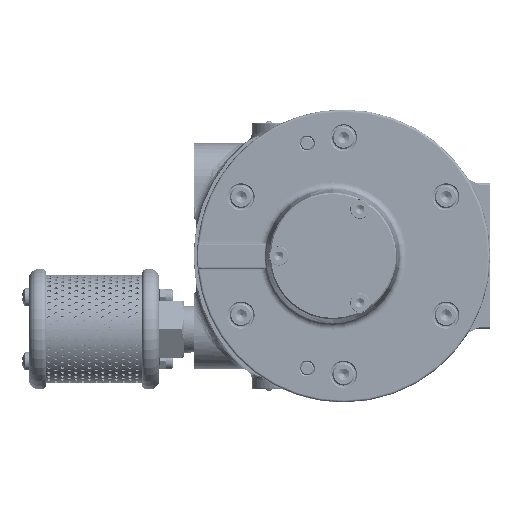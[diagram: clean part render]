
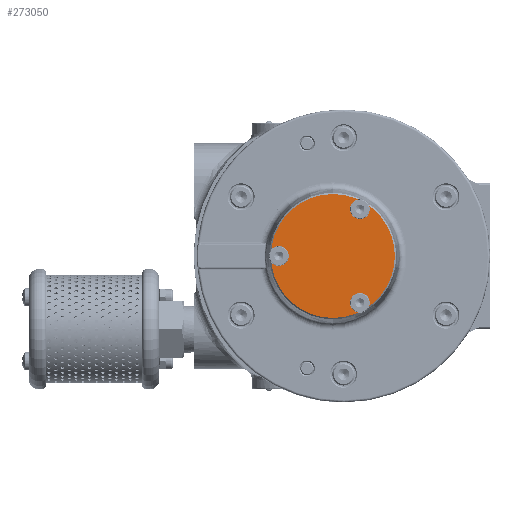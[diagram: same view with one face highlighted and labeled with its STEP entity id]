
A CAD part, left-side view. The second image highlights one B-rep face of the part: STEP entity #273050.
In plain terms, the highlighted planar face has unit normal (-1, 0, 0).
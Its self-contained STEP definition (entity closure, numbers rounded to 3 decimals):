
#7669 = EDGE_LOOP ( 'NONE', ( #189484, #130577 ) ) ;
#12923 = EDGE_CURVE ( 'NONE', #75885, #85635, #138036, .T. ) ;
#13152 = EDGE_CURVE ( 'NONE', #77441, #66413, #256221, .T. ) ;
#13210 = CIRCLE ( 'NONE', #208517, 2.75 ) ;
#14608 = FACE_BOUND ( 'NONE', #210208, .T. ) ;
#28294 = EDGE_LOOP ( 'NONE', ( #257019, #123901 ) ) ;
#33562 = CARTESIAN_POINT ( 'NONE',  ( -65.28, 4.75, 0. ) ) ;
#40694 = CIRCLE ( 'NONE', #184361, 2.75 ) ;
#48564 = DIRECTION ( 'NONE',  ( -1., 0., 0. ) ) ;
#52382 = DIRECTION ( 'NONE',  ( 0., -0.5, -0.866 ) ) ;
#52690 = CARTESIAN_POINT ( 'NONE',  ( -65.28, 18.5, 23.816 ) ) ;
#54056 = EDGE_CURVE ( 'NONE', #66413, #77441, #297056, .T. ) ;
#55012 = CARTESIAN_POINT ( 'NONE',  ( -65.28, -9., -23.816 ) ) ;
#57800 = DIRECTION ( 'NONE',  ( -1., 0., 0. ) ) ;
#60557 = ORIENTED_EDGE ( 'NONE', *, *, #13152, .F. ) ;
#60608 = CARTESIAN_POINT ( 'NONE',  ( -65.28, 4.75, 0. ) ) ;
#65164 = AXIS2_PLACEMENT_3D ( 'NONE', #60608, #173957, #66763 ) ;
#65436 = ORIENTED_EDGE ( 'NONE', *, *, #194808, .F. ) ;
#66413 = VERTEX_POINT ( 'NONE', #137973 ) ;
#66763 = DIRECTION ( 'NONE',  ( 0., 0.5, 0.866 ) ) ;
#68037 = DIRECTION ( 'NONE',  ( 0., -0.5, -0.866 ) ) ;
#69061 = EDGE_CURVE ( 'NONE', #83660, #137565, #13210, .T. ) ;
#70849 = EDGE_CURVE ( 'NONE', #85635, #75885, #209536, .T. ) ;
#75885 = VERTEX_POINT ( 'NONE', #52690 ) ;
#77441 = VERTEX_POINT ( 'NONE', #273695 ) ;
#83660 = VERTEX_POINT ( 'NONE', #206948 ) ;
#85635 = VERTEX_POINT ( 'NONE', #55012 ) ;
#90106 = FACE_BOUND ( 'NONE', #28294, .T. ) ;
#90266 = CARTESIAN_POINT ( 'NONE',  ( -65.28, 4.75, 0. ) ) ;
#103003 = CARTESIAN_POINT ( 'NONE',  ( -65.28, -7.25, 20.785 ) ) ;
#111012 = ORIENTED_EDGE ( 'NONE', *, *, #54056, .F. ) ;
#115685 = CIRCLE ( 'NONE', #181134, 2.75 ) ;
#118627 = CARTESIAN_POINT ( 'NONE',  ( -65.28, -7.25, -20.785 ) ) ;
#123901 = ORIENTED_EDGE ( 'NONE', *, *, #291746, .F. ) ;
#130577 = ORIENTED_EDGE ( 'NONE', *, *, #70849, .T. ) ;
#132683 = CARTESIAN_POINT ( 'NONE',  ( -65.28, -8.625, -23.166 ) ) ;
#136158 = AXIS2_PLACEMENT_3D ( 'NONE', #90266, #136483, #179430 ) ;
#136380 = DIRECTION ( 'NONE',  ( -1., 0., 0. ) ) ;
#136483 = DIRECTION ( 'NONE',  ( -1., 0., 0. ) ) ;
#137565 = VERTEX_POINT ( 'NONE', #180531 ) ;
#137973 = CARTESIAN_POINT ( 'NONE',  ( -65.28, -5.875, 23.166 ) ) ;
#138036 = CIRCLE ( 'NONE', #65164, 27.5 ) ;
#139372 = CARTESIAN_POINT ( 'NONE',  ( -65.28, -7.25, -20.785 ) ) ;
#140797 = EDGE_LOOP ( 'NONE', ( #160582, #65436 ) ) ;
#160582 = ORIENTED_EDGE ( 'NONE', *, *, #69061, .F. ) ;
#165654 = DIRECTION ( 'NONE',  ( 0., 1., 0. ) ) ;
#166352 = VERTEX_POINT ( 'NONE', #182067 ) ;
#171001 = PLANE ( 'NONE',  #266672 ) ;
#172599 = FACE_OUTER_BOUND ( 'NONE', #7669, .T. ) ;
#173957 = DIRECTION ( 'NONE',  ( -1., 0., 0. ) ) ;
#179430 = DIRECTION ( 'NONE',  ( 0., 0.5, 0.866 ) ) ;
#180531 = CARTESIAN_POINT ( 'NONE',  ( -65.28, 30.125, 2.382 ) ) ;
#181134 = AXIS2_PLACEMENT_3D ( 'NONE', #214749, #282058, #165654 ) ;
#182067 = CARTESIAN_POINT ( 'NONE',  ( -65.28, -5.875, -18.403 ) ) ;
#184361 = AXIS2_PLACEMENT_3D ( 'NONE', #139372, #136380, #68037 ) ;
#186019 = CIRCLE ( 'NONE', #200208, 2.75 ) ;
#189484 = ORIENTED_EDGE ( 'NONE', *, *, #12923, .T. ) ;
#190704 = DIRECTION ( 'NONE',  ( -1., 0., 0. ) ) ;
#192493 = DIRECTION ( 'NONE',  ( 0., 1., 0. ) ) ;
#194808 = EDGE_CURVE ( 'NONE', #137565, #83660, #115685, .T. ) ;
#195036 = DIRECTION ( 'NONE',  ( 0., 0.5, 0.866 ) ) ;
#195455 = CARTESIAN_POINT ( 'NONE',  ( -65.28, 28.75, 0. ) ) ;
#200208 = AXIS2_PLACEMENT_3D ( 'NONE', #118627, #190704, #52382 ) ;
#206948 = CARTESIAN_POINT ( 'NONE',  ( -65.28, 27.375, -2.382 ) ) ;
#208517 = AXIS2_PLACEMENT_3D ( 'NONE', #195455, #219475, #192493 ) ;
#209536 = CIRCLE ( 'NONE', #136158, 27.5 ) ;
#210208 = EDGE_LOOP ( 'NONE', ( #60557, #111012 ) ) ;
#214749 = CARTESIAN_POINT ( 'NONE',  ( -65.28, 28.75, 0. ) ) ;
#215136 = DIRECTION ( 'NONE',  ( 1., 0., 0. ) ) ;
#217995 = VERTEX_POINT ( 'NONE', #132683 ) ;
#219475 = DIRECTION ( 'NONE',  ( -1., 0., 0. ) ) ;
#228127 = CARTESIAN_POINT ( 'NONE',  ( -65.28, -7.25, 20.785 ) ) ;
#242713 = AXIS2_PLACEMENT_3D ( 'NONE', #103003, #57800, #263584 ) ;
#244342 = FACE_BOUND ( 'NONE', #140797, .T. ) ;
#253251 = DIRECTION ( 'NONE',  ( 0., -0.5, 0.866 ) ) ;
#256221 = CIRCLE ( 'NONE', #291856, 2.75 ) ;
#257019 = ORIENTED_EDGE ( 'NONE', *, *, #285344, .F. ) ;
#263584 = DIRECTION ( 'NONE',  ( 0., -0.5, 0.866 ) ) ;
#266672 = AXIS2_PLACEMENT_3D ( 'NONE', #33562, #215136, #195036 ) ;
#273050 = ADVANCED_FACE ( 'NONE', ( #172599, #244342, #14608, #90106 ), #171001, .F. ) ;
#273695 = CARTESIAN_POINT ( 'NONE',  ( -65.28, -8.625, 18.403 ) ) ;
#282058 = DIRECTION ( 'NONE',  ( -1., 0., 0. ) ) ;
#285344 = EDGE_CURVE ( 'NONE', #217995, #166352, #40694, .T. ) ;
#291746 = EDGE_CURVE ( 'NONE', #166352, #217995, #186019, .T. ) ;
#291856 = AXIS2_PLACEMENT_3D ( 'NONE', #228127, #48564, #253251 ) ;
#297056 = CIRCLE ( 'NONE', #242713, 2.75 ) ;
